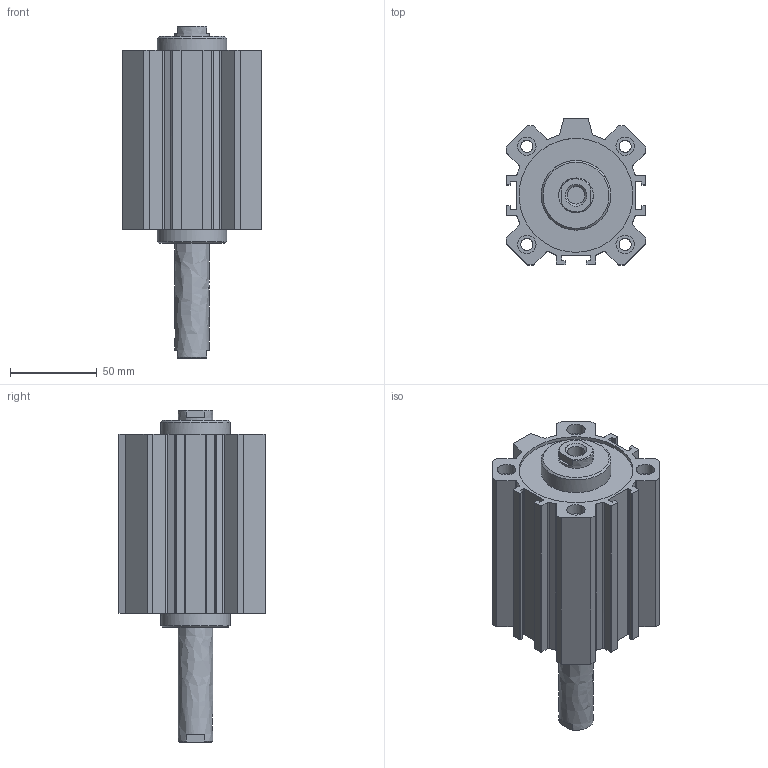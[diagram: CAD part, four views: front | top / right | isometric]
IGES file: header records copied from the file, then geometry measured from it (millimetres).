
Global section: file name: 1514_63_0060; native system: Autodesk Inventor 2014; preprocessor: unknown; author: A. Manieri; date: 20160824.140012; units: millimetre
Bounding box: 80 x 84 x 191 mm (x, y, z)
Volume: 395624.5 mm3; surface area: 110574.1 mm2
Topology: 2 solids, 2 shells, 178 faces, 482 edges, 328 vertices
Faces by surface type: bspline 178
